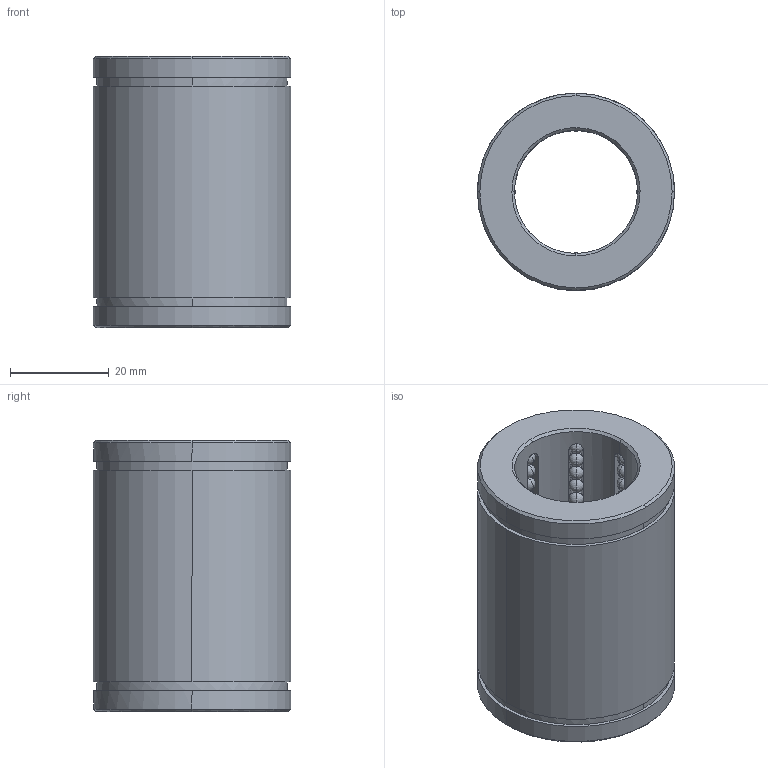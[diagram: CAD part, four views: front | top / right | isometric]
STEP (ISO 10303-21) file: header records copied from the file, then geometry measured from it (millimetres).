
FILE_DESCRIPTION(('CATIA V5 STEP Exchange'),'2;1');
FILE_NAME('C:\Users\Raffaele\Desktop\3D BOLEX\3D FILES CF BOLEX\3-BUSH REF 803\B8032555.stp','2019-06-19T14:08:03+00:00',('none'),('none'),'CATIA Version 5 Release 20 GA (IN-10)','CATIA V5 STEP AP203','none');
FILE_SCHEMA(('CONFIG_CONTROL_DESIGN'));
Length unit declared in the file: millimetre
Products named in the file (1): B8032555
Bounding box: 40 x 40 x 55 mm (x, y, z)
Volume: 40143.7 mm3; surface area: 18722 mm2
Topology: 121 solids, 121 shells, 554 faces, 1618 edges, 356 vertices
Faces by surface type: sphere 480, plane 30, cylinder 28, cone 16
Entity records: 10487 total; most frequent: CARTESIAN_POINT 2066, DIRECTION 1729, ORIENTED_EDGE 1316, AXIS2_PLACEMENT_3D 1082, EDGE_CURVE 658, EDGE_LOOP 566, ADVANCED_FACE 554, FACE_OUTER_BOUND 554
